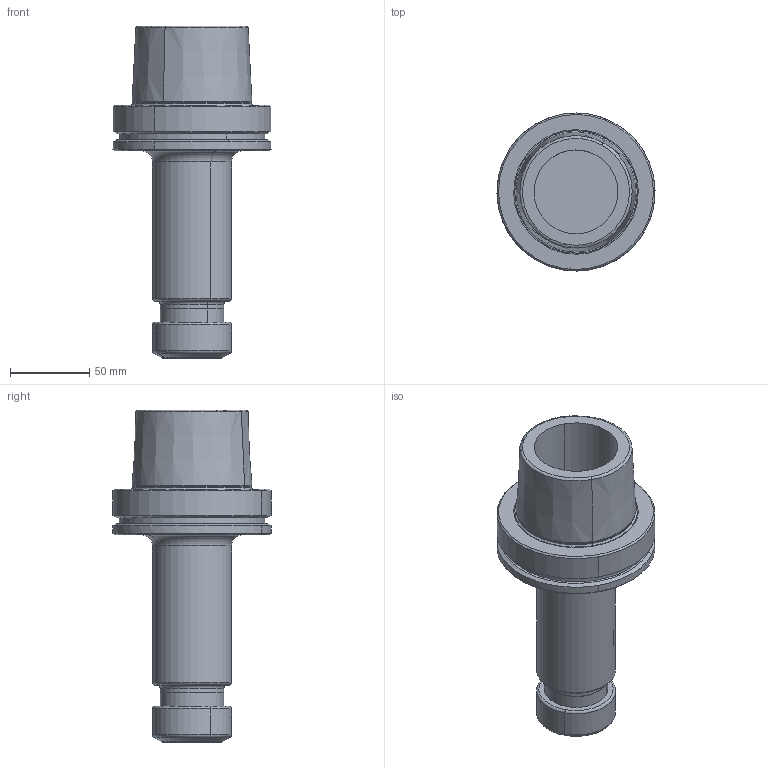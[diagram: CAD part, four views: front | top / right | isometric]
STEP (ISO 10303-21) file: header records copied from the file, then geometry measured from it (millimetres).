
FILE_DESCRIPTION(('CATIA V5 STEP','CAx-IF Rec.Pracs.--- Model Styling and Organization---1.2---2011-12-15'),'2;1');
FILE_NAME('\\nas01\drv1\utils\eitdev\rte\eit\transmagicconvert\db\out\635924152624718174\4504601-L-B.stp','2016-03-01T05:47:54+00:00',('none'),('none'),'CATIA Version 5 Release 21 SP 5 (IN-10)','CATIA V5 STEP AP214','none');
FILE_SCHEMA(('AUTOMOTIVE_DESIGN { 1 0 10303 214 1 1 1 1 }'));
Length unit declared in the file: millimetre
Products named in the file (1): HSK A 100 ER32X160
Bounding box: 99.97 x 100 x 210 mm (x, y, z)
Volume: 512446.1 mm3; surface area: 72024.3 mm2
Topology: 1 solids, 1 shells, 74 faces, 160 edges, 95 vertices
Faces by surface type: cylinder 24, cone 22, torus 18, plane 10
Entity records: 1890 total; most frequent: CARTESIAN_POINT 415, ORIENTED_EDGE 316, DIRECTION 240, EDGE_CURVE 158, AXIS2_PLACEMENT_3D 151, CIRCLE 106, VERTEX_POINT 95, EDGE_LOOP 83
